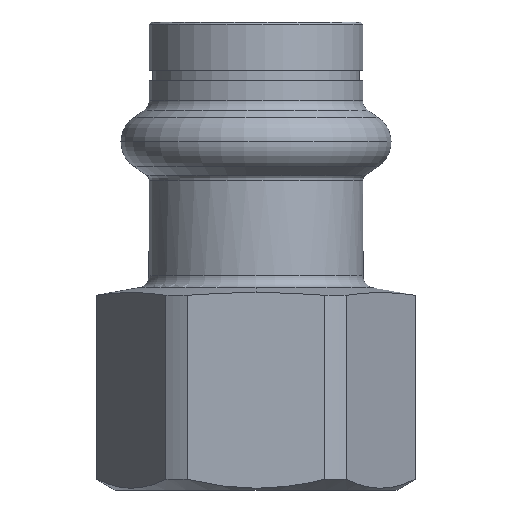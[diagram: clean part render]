
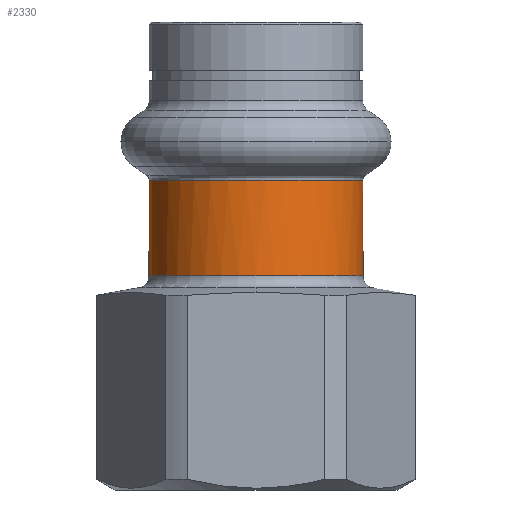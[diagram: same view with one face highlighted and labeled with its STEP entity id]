
A CAD part, front view. The second image highlights one B-rep face of the part: STEP entity #2330.
In plain terms, the highlighted cylindrical face has radius 8.925 mm (diameter 17.85 mm), a partial arc.
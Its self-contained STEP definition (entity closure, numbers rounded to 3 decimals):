
#1690=CARTESIAN_POINT('',(19.318,8.805,
0.743));
#1700=VERTEX_POINT('',#1690);
#1790=CARTESIAN_POINT('',(1.532,8.805,
2.257));
#1800=VERTEX_POINT('',#1790);
#1830=CARTESIAN_POINT('',(10.425,8.805,1.5));
#1840=DIRECTION('',(0.,1.,0.));
#1850=DIRECTION('',(-0.996,0.,0.085));
#1860=AXIS2_PLACEMENT_3D('',#1830,#1840,#1850);
#1870=CIRCLE('',#1860,8.925);
#1930=CARTESIAN_POINT('',(10.425,6.402,1.5));
#1940=DIRECTION('',(0.,-1.,0.));
#1950=DIRECTION('',(-0.996,0.,0.085));
#1960=AXIS2_PLACEMENT_3D('',#1930,#1940,#1950);
#1970=CYLINDRICAL_SURFACE('',#1960,8.925);
#1980=CARTESIAN_POINT('',(1.532,6.402,
2.257));
#1990=DIRECTION('',(0.,-1.,0.));
#2000=VECTOR('',#1990,1.);
#2010=LINE('',#1980,#2000);
#2020=CARTESIAN_POINT('',(1.532,0.839,
2.257));
#2030=VERTEX_POINT('',#2020);
#2040=EDGE_CURVE('',#1800,#2030,#2010,.T.);
#2050=ORIENTED_EDGE('',*,*,#2040,.T.);
#2060=EDGE_CURVE('',#1800,#1700,#1870,.T.);
#2070=ORIENTED_EDGE('',*,*,#2060,.F.);
#2080=CARTESIAN_POINT('',(19.318,6.402,
0.743));
#2090=DIRECTION('',(0.,-1.,0.));
#2100=VECTOR('',#2090,1.);
#2110=LINE('',#2080,#2100);
#2120=CARTESIAN_POINT('',(19.318,0.839,
0.743));
#2130=VERTEX_POINT('',#2120);
#2140=EDGE_CURVE('',#1700,#2130,#2110,.T.);
#2150=ORIENTED_EDGE('',*,*,#2140,.F.);
#2160=CARTESIAN_POINT('',(10.425,0.839,1.5));
#2170=DIRECTION('',(0.,-1.,0.));
#2180=DIRECTION('',(-1.,0.,0.));
#2190=AXIS2_PLACEMENT_3D('',#2160,#2170,#2180);
#2200=CIRCLE('',#2190,8.925);
#2210=CARTESIAN_POINT('',(19.35,0.839,1.5));
#2220=VERTEX_POINT('',#2210);
#2230=EDGE_CURVE('',#2130,#2220,#2200,.T.);
#2240=ORIENTED_EDGE('',*,*,#2230,.F.);
#2250=CARTESIAN_POINT('',(10.425,0.839,10.425));
#2260=VERTEX_POINT('',#2250);
#2270=EDGE_CURVE('',#2220,#2260,#2200,.T.);
#2280=ORIENTED_EDGE('',*,*,#2270,.F.);
#2290=EDGE_CURVE('',#2260,#2030,#2200,.T.);
#2300=ORIENTED_EDGE('',*,*,#2290,.F.);
#2310=EDGE_LOOP('',(#2300,#2280,#2240,#2150,#2070,#2050));
#2320=FACE_OUTER_BOUND('',#2310,.T.);
#2330=ADVANCED_FACE('',(#2320),#1970,.T.);
